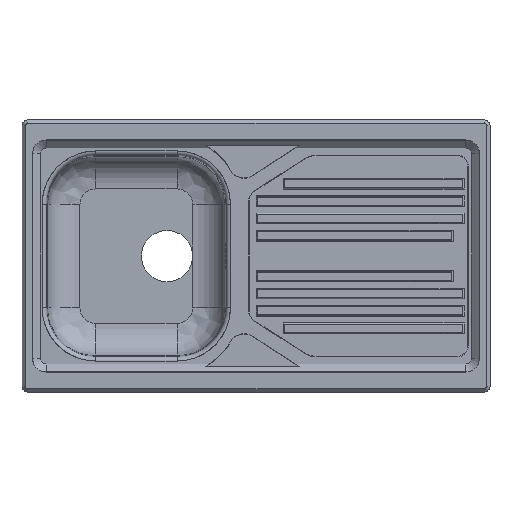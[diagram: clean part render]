
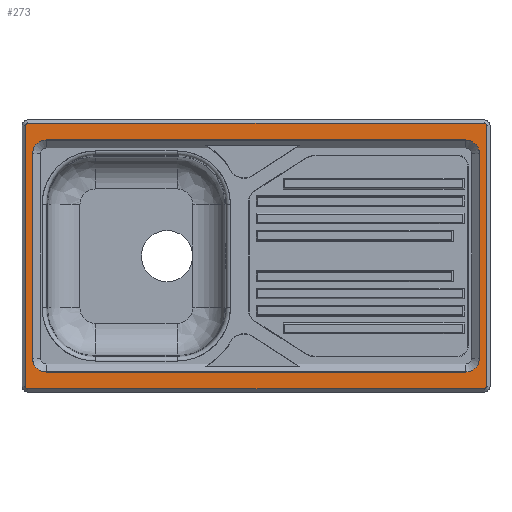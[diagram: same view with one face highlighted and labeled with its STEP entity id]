
A CAD part, top view. The second image highlights one B-rep face of the part: STEP entity #273.
In plain terms, the highlighted planar face has unit normal (0, 0, 1).
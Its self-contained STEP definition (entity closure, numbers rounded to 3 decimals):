
#273=ADVANCED_FACE('',(#676,#677),#678,.T.);
#676=FACE_OUTER_BOUND('',#1186,.T.);
#677=FACE_BOUND('',#1187,.T.);
#678=PLANE('',#1188);
#1186=EDGE_LOOP('',(#2604,#2605,#2606,#2607,#2608,#2609,#2610,#2611));
#1187=EDGE_LOOP('',(#2612,#2613,#2614,#2615,#2616,#2617,#2618,#2619));
#1188=AXIS2_PLACEMENT_3D('',#2620,#2621,#2622);
#2604=ORIENTED_EDGE('',*,*,#3580,.T.);
#2605=ORIENTED_EDGE('',*,*,#3583,.T.);
#2606=ORIENTED_EDGE('',*,*,#3586,.T.);
#2607=ORIENTED_EDGE('',*,*,#3589,.T.);
#2608=ORIENTED_EDGE('',*,*,#3592,.T.);
#2609=ORIENTED_EDGE('',*,*,#3595,.T.);
#2610=ORIENTED_EDGE('',*,*,#3598,.T.);
#2611=ORIENTED_EDGE('',*,*,#3600,.T.);
#2612=ORIENTED_EDGE('',*,*,#3522,.T.);
#2613=ORIENTED_EDGE('',*,*,#3520,.T.);
#2614=ORIENTED_EDGE('',*,*,#3515,.T.);
#2615=ORIENTED_EDGE('',*,*,#3513,.T.);
#2616=ORIENTED_EDGE('',*,*,#3511,.T.);
#2617=ORIENTED_EDGE('',*,*,#3509,.T.);
#2618=ORIENTED_EDGE('',*,*,#3526,.T.);
#2619=ORIENTED_EDGE('',*,*,#3524,.T.);
#2620=CARTESIAN_POINT('',(0.0,0.0,15.0));
#2621=DIRECTION('',(0.0,0.0,1.0));
#2622=DIRECTION('',(1.0,-0.0,0.0));
#3509=EDGE_CURVE('',#4234,#4232,#4235,.T.);
#3511=EDGE_CURVE('',#4237,#4234,#4238,.F.);
#3513=EDGE_CURVE('',#4240,#4237,#4241,.T.);
#3515=EDGE_CURVE('',#4243,#4240,#4244,.F.);
#3520=EDGE_CURVE('',#4251,#4243,#4252,.T.);
#3522=EDGE_CURVE('',#4254,#4251,#4255,.F.);
#3524=EDGE_CURVE('',#4257,#4254,#4258,.T.);
#3526=EDGE_CURVE('',#4232,#4257,#4260,.F.);
#3580=EDGE_CURVE('',#4344,#4349,#4351,.F.);
#3583=EDGE_CURVE('',#4349,#4354,#4356,.T.);
#3586=EDGE_CURVE('',#4354,#4359,#4361,.F.);
#3589=EDGE_CURVE('',#4359,#4364,#4366,.T.);
#3592=EDGE_CURVE('',#4364,#4369,#4371,.F.);
#3595=EDGE_CURVE('',#4369,#4374,#4376,.T.);
#3598=EDGE_CURVE('',#4374,#4379,#4381,.F.);
#3600=EDGE_CURVE('',#4379,#4344,#4383,.T.);
#4232=VERTEX_POINT('',#5340);
#4234=VERTEX_POINT('',#5343);
#4235=LINE('',#5344,#5345);
#4237=VERTEX_POINT('',#5348);
#4238=CIRCLE('',#5349,25.0);
#4240=VERTEX_POINT('',#5352);
#4241=LINE('',#5353,#5354);
#4243=VERTEX_POINT('',#5357);
#4244=CIRCLE('',#5358,25.0);
#4251=VERTEX_POINT('',#5371);
#4252=LINE('',#5372,#5373);
#4254=VERTEX_POINT('',#5376);
#4255=CIRCLE('',#5377,25.0);
#4257=VERTEX_POINT('',#5380);
#4258=LINE('',#5381,#5382);
#4260=CIRCLE('',#5385,25.0);
#4344=VERTEX_POINT('',#5494);
#4349=VERTEX_POINT('',#5501);
#4351=LINE('',#5504,#5505);
#4354=VERTEX_POINT('',#5508);
#4356=CIRCLE('',#5511,5.0);
#4359=VERTEX_POINT('',#5515);
#4361=LINE('',#5518,#5519);
#4364=VERTEX_POINT('',#5522);
#4366=CIRCLE('',#5525,5.0);
#4369=VERTEX_POINT('',#5529);
#4371=LINE('',#5532,#5533);
#4374=VERTEX_POINT('',#5536);
#4376=CIRCLE('',#5539,5.0);
#4379=VERTEX_POINT('',#5543);
#4381=LINE('',#5546,#5547);
#4383=CIRCLE('',#5549,5.0);
#5340=CARTESIAN_POINT('',(385.5,213.0,15.0));
#5343=CARTESIAN_POINT('',(-385.5,213.0,15.0));
#5344=CARTESIAN_POINT('',(0.0,213.0,15.0));
#5345=VECTOR('',#6629,1.0);
#5348=CARTESIAN_POINT('',(-410.5,188.0,15.0));
#5349=AXIS2_PLACEMENT_3D('',#6631,#6632,#6633);
#5352=CARTESIAN_POINT('',(-410.5,-188.0,15.0));
#5353=CARTESIAN_POINT('',(-410.5,0.0,15.0));
#5354=VECTOR('',#6635,1.0);
#5357=CARTESIAN_POINT('',(-385.5,-213.0,15.0));
#5358=AXIS2_PLACEMENT_3D('',#6637,#6638,#6639);
#5371=CARTESIAN_POINT('',(385.5,-213.0,15.0));
#5372=CARTESIAN_POINT('',(0.0,-213.0,15.0));
#5373=VECTOR('',#6642,1.0);
#5376=CARTESIAN_POINT('',(410.5,-188.0,15.0));
#5377=AXIS2_PLACEMENT_3D('',#6644,#6645,#6646);
#5380=CARTESIAN_POINT('',(410.5,188.0,15.0));
#5381=CARTESIAN_POINT('',(410.5,0.0,15.0));
#5382=VECTOR('',#6648,1.0);
#5385=AXIS2_PLACEMENT_3D('',#6650,#6651,#6652);
#5494=CARTESIAN_POINT('',(419.0,244.0,15.0));
#5501=CARTESIAN_POINT('',(-419.0,244.0,15.0));
#5504=CARTESIAN_POINT('',(0.0,244.0,15.0));
#5505=VECTOR('',#6756,1.0);
#5508=CARTESIAN_POINT('',(-424.0,239.0,15.0));
#5511=AXIS2_PLACEMENT_3D('',#6761,#6762,#6763);
#5515=CARTESIAN_POINT('',(-424.0,-239.0,15.0));
#5518=CARTESIAN_POINT('',(-424.0,0.,15.0));
#5519=VECTOR('',#6766,1.0);
#5522=CARTESIAN_POINT('',(-419.0,-244.0,15.0));
#5525=AXIS2_PLACEMENT_3D('',#6771,#6772,#6773);
#5529=CARTESIAN_POINT('',(419.0,-244.0,15.0));
#5532=CARTESIAN_POINT('',(0.0,-244.0,15.0));
#5533=VECTOR('',#6776,1.0);
#5536=CARTESIAN_POINT('',(424.0,-239.0,15.0));
#5539=AXIS2_PLACEMENT_3D('',#6781,#6782,#6783);
#5543=CARTESIAN_POINT('',(424.0,239.0,15.0));
#5546=CARTESIAN_POINT('',(424.0,0.0,15.0));
#5547=VECTOR('',#6786,1.0);
#5549=AXIS2_PLACEMENT_3D('',#6790,#6791,#6792);
#6629=DIRECTION('',(1.0,0.0,0.0));
#6631=CARTESIAN_POINT('',(-385.5,188.0,15.0));
#6632=DIRECTION('',(0.0,0.0,1.0));
#6633=DIRECTION('',(1.0,0.0,0.0));
#6635=DIRECTION('',(0.0,1.0,0.0));
#6637=CARTESIAN_POINT('',(-385.5,-188.0,15.0));
#6638=DIRECTION('',(0.0,0.0,1.0));
#6639=DIRECTION('',(1.0,0.0,0.0));
#6642=DIRECTION('',(-1.0,0.0,0.0));
#6644=CARTESIAN_POINT('',(385.5,-188.0,15.0));
#6645=DIRECTION('',(0.0,0.0,1.0));
#6646=DIRECTION('',(1.0,0.0,0.0));
#6648=DIRECTION('',(0.0,-1.0,0.0));
#6650=CARTESIAN_POINT('',(385.5,188.0,15.0));
#6651=DIRECTION('',(0.0,0.0,1.0));
#6652=DIRECTION('',(1.0,0.0,0.0));
#6756=DIRECTION('',(1.0,0.0,0.0));
#6761=CARTESIAN_POINT('',(-419.0,239.0,15.0));
#6762=DIRECTION('',(0.,0.,1.0));
#6763=DIRECTION('',(1.0,0.,0.));
#6766=DIRECTION('',(0.0,1.0,0.0));
#6771=CARTESIAN_POINT('',(-419.0,-239.0,15.0));
#6772=DIRECTION('',(0.,0.,1.0));
#6773=DIRECTION('',(1.0,0.,0.));
#6776=DIRECTION('',(-1.0,0.0,0.0));
#6781=CARTESIAN_POINT('',(419.0,-239.0,15.0));
#6782=DIRECTION('',(0.,0.,1.0));
#6783=DIRECTION('',(1.0,0.,0.));
#6786=DIRECTION('',(0.0,-1.0,0.0));
#6790=CARTESIAN_POINT('',(419.0,239.0,15.0));
#6791=DIRECTION('',(0.,0.,1.0));
#6792=DIRECTION('',(1.0,0.,0.));
